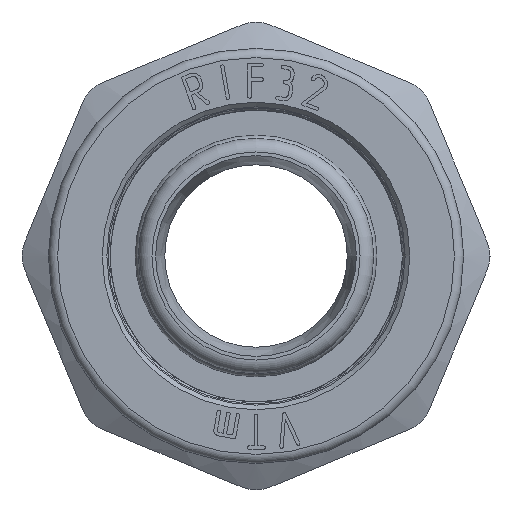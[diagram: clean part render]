
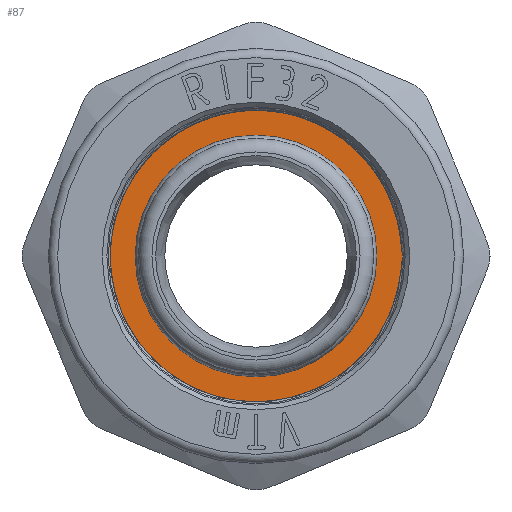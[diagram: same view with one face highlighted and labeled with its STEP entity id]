
A CAD part, front view. The second image highlights one B-rep face of the part: STEP entity #87.
In plain terms, the highlighted planar face has unit normal (0, -1, 0).
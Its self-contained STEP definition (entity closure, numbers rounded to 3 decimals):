
#87=ADVANCED_FACE('',(#967,#969),#971,.F.);
#967=FACE_BOUND('',#968,.T.);
#968=EDGE_LOOP('',(#5233));
#969=FACE_BOUND('',#970,.T.);
#970=EDGE_LOOP('',(#5234));
#971=PLANE('',#972);
#972=AXIS2_PLACEMENT_3D('',#973,#974,#975);
#973=CARTESIAN_POINT('',(0.,-11.2,0.));
#974=DIRECTION('',(0.,1.,0.));
#975=DIRECTION('',(-1.,0.,0.));
#5233=ORIENTED_EDGE('',*,*,#9012,.F.);
#5234=ORIENTED_EDGE('',*,*,#9011,.T.);
#9011=EDGE_CURVE('',#10638,#10638,#10639,.T.);
#9012=EDGE_CURVE('',#10640,#10640,#10641,.T.);
#10638=VERTEX_POINT('',#13454);
#10639=CIRCLE('',#13455,13.);
#10640=VERTEX_POINT('',#13459);
#10641=CIRCLE('',#13460,16.05);
#13454=CARTESIAN_POINT('',(-13.,-11.2,0.));
#13455=AXIS2_PLACEMENT_3D('',#13456,#13457,#13458);
#13456=CARTESIAN_POINT('',(0.,-11.2,0.));
#13457=DIRECTION('',(0.,1.,0.));
#13458=DIRECTION('',(-1.,0.,0.));
#13459=CARTESIAN_POINT('',(-16.05,-11.2,0.));
#13460=AXIS2_PLACEMENT_3D('',#13461,#13462,#13463);
#13461=CARTESIAN_POINT('',(0.,-11.2,0.));
#13462=DIRECTION('',(0.,1.,0.));
#13463=DIRECTION('',(-1.,0.,0.));
